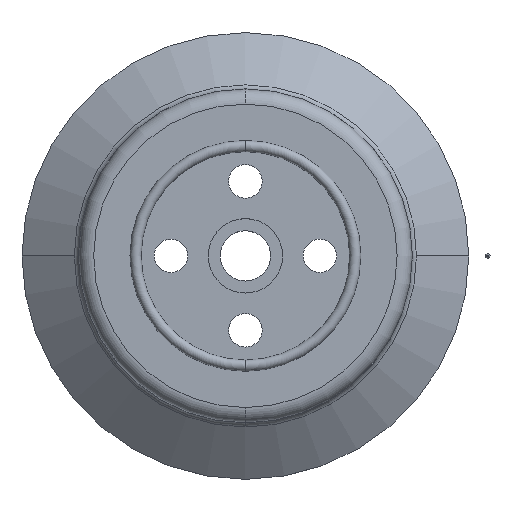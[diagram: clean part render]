
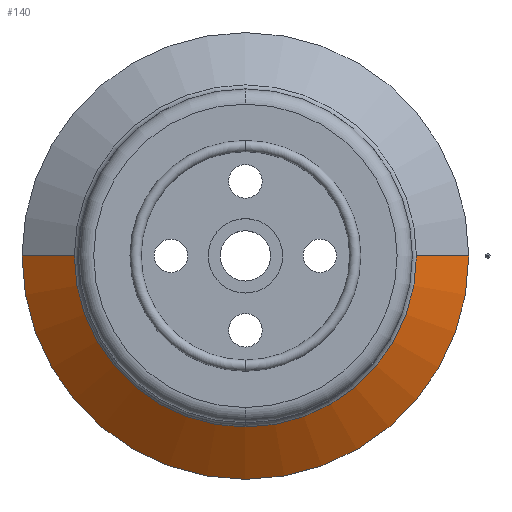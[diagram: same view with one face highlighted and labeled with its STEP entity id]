
A CAD part, top view. The second image highlights one B-rep face of the part: STEP entity #140.
In plain terms, the highlighted conical face has half-angle 53 degrees and reference radius 52.972 mm.
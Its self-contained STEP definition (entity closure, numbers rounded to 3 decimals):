
#140=ADVANCED_FACE('',(#331),#332,.T.);
#331=FACE_OUTER_BOUND('',#589,.T.);
#332=CONICAL_SURFACE('',#590,52.972,0.925);
#589=EDGE_LOOP('',(#935,#936,#937,#938,#939));
#590=AXIS2_PLACEMENT_3D('',#940,#941,#942);
#935=ORIENTED_EDGE('',*,*,#1520,.F.);
#936=ORIENTED_EDGE('',*,*,#1521,.T.);
#937=ORIENTED_EDGE('',*,*,#1522,.T.);
#938=ORIENTED_EDGE('',*,*,#1523,.F.);
#939=ORIENTED_EDGE('',*,*,#1516,.F.);
#940=CARTESIAN_POINT('',(0.0,0.,6.296));
#941=DIRECTION('',(0.0,0.,-1.0));
#942=DIRECTION('',(1.0,0.0,0.0));
#1516=EDGE_CURVE('',#1814,#1816,#1817,.T.);
#1520=EDGE_CURVE('',#1821,#1814,#1822,.T.);
#1521=EDGE_CURVE('',#1821,#1823,#1824,.T.);
#1522=EDGE_CURVE('',#1823,#1825,#1826,.T.);
#1523=EDGE_CURVE('',#1816,#1825,#1827,.T.);
#1814=VERTEX_POINT('',#2197);
#1816=VERTEX_POINT('',#2200);
#1817=CIRCLE('',#2201,60.0);
#1821=VERTEX_POINT('',#2206);
#1822=LINE('',#2207,#2208);
#1823=VERTEX_POINT('',#2209);
#1824=CIRCLE('',#2210,45.945);
#1825=VERTEX_POINT('',#2211);
#1826=CIRCLE('',#2212,45.945);
#1827=LINE('',#2213,#2214);
#2197=CARTESIAN_POINT('',(60.0,0.,1.));
#2200=CARTESIAN_POINT('',(-60.0,0.,1.));
#2201=AXIS2_PLACEMENT_3D('',#2621,#2622,#2623);
#2206=CARTESIAN_POINT('',(45.945,0.,11.592));
#2207=CARTESIAN_POINT('',(52.972,0.,6.296));
#2208=VECTOR('',#2628,1.0);
#2209=CARTESIAN_POINT('',(0.,-45.945,11.592));
#2210=AXIS2_PLACEMENT_3D('',#2629,#2630,#2631);
#2211=CARTESIAN_POINT('',(-45.945,0.,11.592));
#2212=AXIS2_PLACEMENT_3D('',#2632,#2633,#2634);
#2213=CARTESIAN_POINT('',(-52.972,0.,6.296));
#2214=VECTOR('',#2635,1.0);
#2621=CARTESIAN_POINT('',(0.0,0.,1.));
#2622=DIRECTION('',(0.0,0.,-1.0));
#2623=DIRECTION('',(1.0,0.0,0.0));
#2628=DIRECTION('',(0.799,0.,-0.602));
#2629=CARTESIAN_POINT('',(0.0,0.,11.592));
#2630=DIRECTION('',(0.0,0.,-1.0));
#2631=DIRECTION('',(1.0,0.0,0.0));
#2632=CARTESIAN_POINT('',(0.0,0.,11.592));
#2633=DIRECTION('',(0.0,0.,-1.0));
#2634=DIRECTION('',(1.0,0.0,0.0));
#2635=DIRECTION('',(0.799,0.,0.602));
